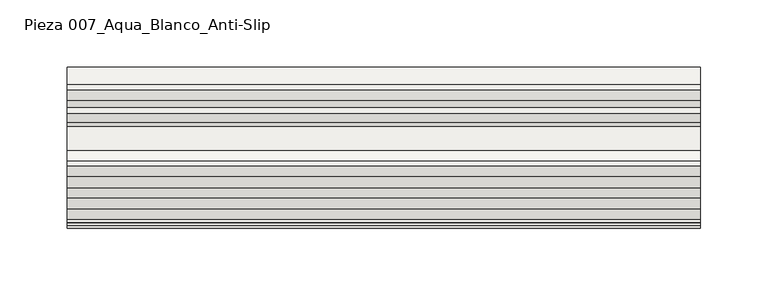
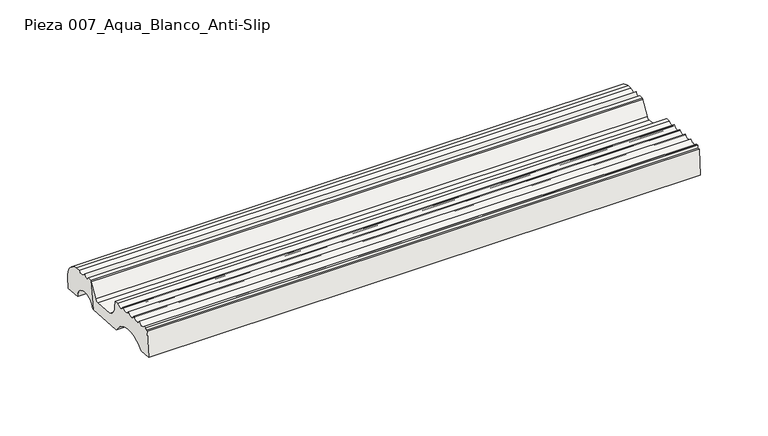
"""IFC4 building model written with IfcOpenShell, lengths in millimetres: slab geometry, ROSA GRES_007 : Pieza 007_Aqua_Blanco_Anti-Slip."""

from ifc_helpers import new_model, si_unit, point, frame, frame_2d, origin, place, context, project, spatial, polyline, circle_curve, trimmed, segment, composite_curve, outline, extrude, source, transform, mapped, element, save


def pieza_007_aqua_blanco_anti_slip_6f5a8090(model_context):
    return source(origin(), model_context, "Body", "SweptSolid", [
        extrude(outline(composite_curve([segment(trimmed(circle_curve(frame_2d((-25.9545763, 173.0767428)), 11.6464304), [point((-14.3742659, 174.3159971))], [point((-37.1820416, 176.172444))], True, "CARTESIAN"), True, "CONTINUOUS"), segment(polyline([(-37.1820416, 176.172444), (-33.8762309, 200.4746837), (-29.9345538, 200.1538709)]), True, "CONTINUOUS"), segment(trimmed(circle_curve(frame_2d((-27.3971937, 201.142641)), 2.7232081), [point((-29.9345538, 200.1538709))], [point((-24.7247274, 200.6193952))], True, "CARTESIAN"), True, "CONTINUOUS"), segment(trimmed(circle_curve(frame_2d((-20.3008643, 202.7650351)), 4.9167404), [point((-24.7247274, 200.6193952))], [point((-16.9364731, 199.1796191))], True, "CARTESIAN"), True, "CONTINUOUS"), segment(polyline([(-16.9364731, 199.1796191), (-12.7748841, 198.875801)]), True, "CONTINUOUS"), segment(trimmed(circle_curve(frame_2d((-15.1536138, 183.7870899)), 15.2750633), [point((-12.7748841, 198.875801))], [point((0.0710994, 182.547869))], False, "CARTESIAN"), True, "CONTINUOUS"), segment(polyline([(0.0710994, 182.547869), (-0.6896004, 173.202129), (-14.3742659, 174.3159971)]), True, "CONTINUOUS")], self_intersect=False)), frame((0.0, 0.0, 0.0), z_axis=(1.0, 0.0, 0.0), x_axis=(0.0, 1.0, 0.0)), (0.0, 0.0, 1.0), 469.9734114),
        extrude(outline(composite_curve([segment(trimmed(circle_curve(frame_2d((-91.1625174, 167.3774726)), 22.5372595), [point((-71.8498608, 178.9942432))], [point((-108.342302, 181.9645582))], True, "CARTESIAN"), True, "CONTINUOUS"), segment(polyline([(-108.342302, 181.9645582), (-119.2900344, 182.8556525), (-117.4809059, 205.0820876), (-115.5338707, 204.9236084), (-115.3491545, 207.1930072), (-113.0660814, 207.0070959)]), True, "CONTINUOUS"), segment(trimmed(circle_curve(frame_2d((-109.1074243, 209.7932705)), 4.8408403), [point((-113.0660814, 207.0070959))], [point((-105.2742048, 206.836894))], True, "CARTESIAN"), True, "CONTINUOUS"), segment(trimmed(circle_curve(frame_2d((-100.9933064, 209.1504161)), 4.8660534), [point((-105.2742048, 206.836894))], [point((-97.1292049, 206.1928503))], True, "CARTESIAN"), True, "CONTINUOUS"), segment(trimmed(circle_curve(frame_2d((-92.9342908, 208.0451437)), 4.5856619), [point((-97.1292049, 206.1928503))], [point((-89.0833894, 205.555394))], True, "CARTESIAN"), True, "CONTINUOUS"), segment(trimmed(circle_curve(frame_2d((-84.8780848, 207.3839748)), 4.5856619), [point((-89.0833894, 205.555394))], [point((-81.0271834, 204.8942251))], True, "CARTESIAN"), True, "CONTINUOUS"), segment(trimmed(circle_curve(frame_2d((-76.8218788, 206.722806)), 4.5856619), [point((-81.0271834, 204.8942251))], [point((-73.3820924, 203.6902881))], True, "CARTESIAN"), True, "CONTINUOUS"), segment(polyline([(-73.3820924, 203.6902881), (-69.6579726, 203.3871621), (-69.3023399, 198.236672)]), True, "CONTINUOUS"), segment(trimmed(circle_curve(frame_2d((-57.0579989, 199.0821231)), 12.2734948), [point((-69.3023399, 198.236672))], [point((-61.867532, 187.7902205))], True, "CARTESIAN"), True, "CONTINUOUS"), segment(polyline([(-61.867532, 187.7902205), (-43.8250834, 186.3216491)]), True, "CONTINUOUS"), segment(trimmed(circle_curve(frame_2d((-43.5817022, 189.3117604)), 3.0), [point((-43.8250834, 186.3216491))], [point((-40.9402045, 187.8896178))], True, "CARTESIAN"), True, "CONTINUOUS"), segment(trimmed(circle_curve(frame_2d((-106.9597263, 233.2212806)), 80.084561), [point((-40.9402045, 187.8896178))], [point((-33.8762309, 200.4746837))], True, "CARTESIAN"), True, "CONTINUOUS"), segment(polyline([(-33.8762309, 200.4746837), (-37.1820416, 176.172444), (-71.8498608, 178.9942432)]), True, "CONTINUOUS")], self_intersect=False)), frame((0.0, 0.0, 0.0), z_axis=(1.0, 0.0, 0.0), x_axis=(0.0, 1.0, 0.0)), (0.0, 0.0, 1.0), 469.9734114),
    ])


if __name__ == "__main__":
    model = new_model("IFC4")
    model_context = context("Model", 3, world=origin())
    ifc_project = project(units=[si_unit("LENGTHUNIT", "METRE", prefix="MILLI")], contexts=[model_context])
    site = spatial("IfcSite", under=ifc_project)
    building = spatial("IfcBuilding", under=site)
    placement = place(None, origin())
    pieza_007_aqua_blanco_anti_slip_shape = pieza_007_aqua_blanco_anti_slip_6f5a8090(model_context)
    element("IfcSlab", 1, ObjectType="ROSA GRES_007 : Pieza 007_Aqua_Blanco_Anti-Slip", at=placement, inside=building, context=model_context, shape_type="MappedRepresentation", body=[
        mapped(pieza_007_aqua_blanco_anti_slip_shape, transform((0.0, 0.0, 0.0), x_axis=(1.0, 0.0, 0.0), y_axis=(0.0, 1.0, 0.0), z_axis=(0.0, 0.0, 1.0))),
    ])
    save(model, "model.ifc")
